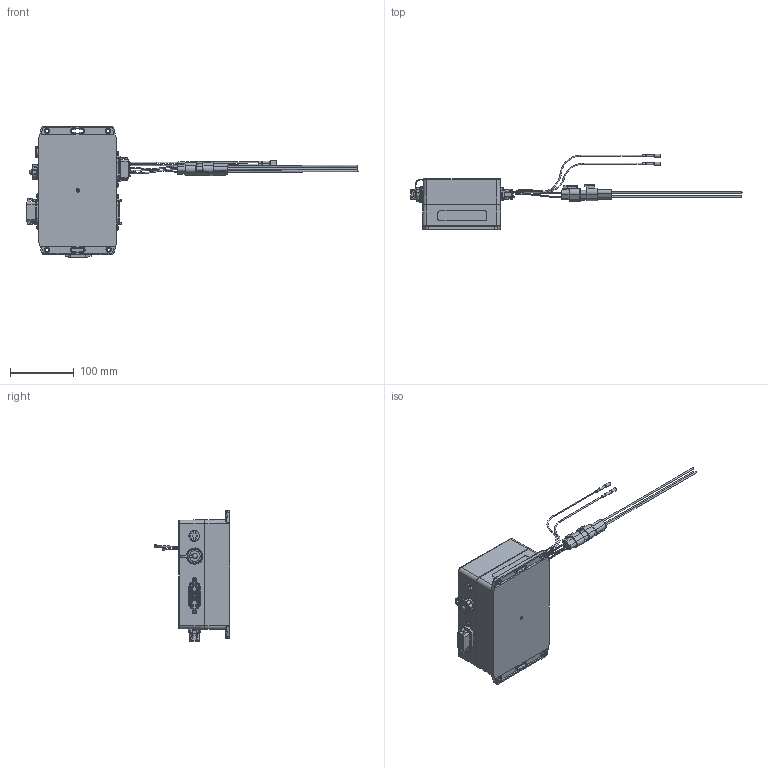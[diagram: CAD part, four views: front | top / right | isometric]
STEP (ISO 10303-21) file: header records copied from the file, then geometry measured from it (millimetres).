
FILE_DESCRIPTION (( 'STEP AP214' ), '1' );
FILE_NAME ('7073_Int_Module.STEP', '2015-09-01T19:29:21', ( '' ), ( '' ), 'SwSTEP 2.0', 'SolidWorks 2015', '' );
FILE_SCHEMA (( 'AUTOMOTIVE_DESIGN' ));
Length unit declared in the file: inch
Products named in the file (1): 7073_Int_Module
Bounding box: 518.89 x 118.21 x 206.04 mm (x, y, z)
Volume: 1723235 mm3; surface area: 132210 mm2
Topology: 1 solids, 1 shells, 2845 faces, 7741 edges, 4877 vertices
Faces by surface type: plane 1391, bspline 638, cylinder 581, torus 102, cone 90, sphere 43
Full cylindrical faces by diameter (mm): 1.524 x5, 1.905 x4, 2.54 x34, 3.15 x2, 3.698 x2, 4.775 x2, 5 x4, 5.7 x1, 6.82 x8, 7.493 x1, 16.75 x1
Entity records: 143762 total; most frequent: CARTESIAN_POINT 51305, ORIENTED_EDGE 14984, DIRECTION 11954, EDGE_CURVE 7492, VERTEX_POINT 4813, VECTOR 4560, LINE 4560, AXIS2_PLACEMENT_3D 3697
